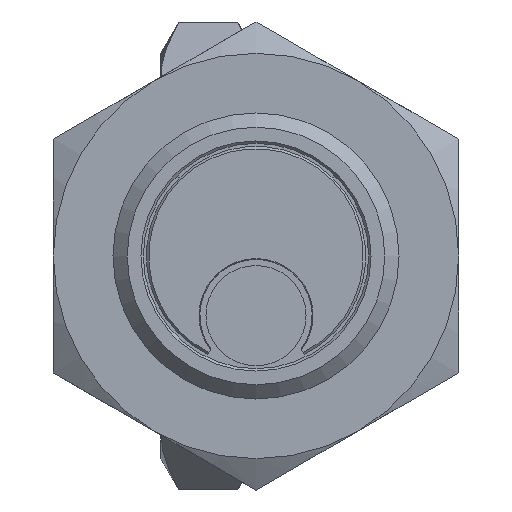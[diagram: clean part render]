
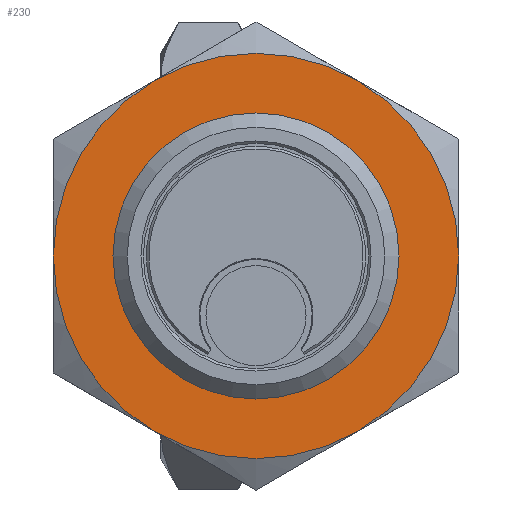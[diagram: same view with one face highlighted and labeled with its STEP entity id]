
A CAD part, left-side view. The second image highlights one B-rep face of the part: STEP entity #230.
In plain terms, the highlighted planar face has unit normal (-1, 0, 0) as drawn and (0, -1, 0) by its records, which use the part's own axes.
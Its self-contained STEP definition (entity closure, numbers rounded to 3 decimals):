
#230 = ADVANCED_FACE( '', ( #340, #341 ), #342, .F. );
#340 = FACE_BOUND( '', #432, .T. );
#341 = FACE_OUTER_BOUND( '', #433, .T. );
#342 = PLANE( '', #434 );
#432 = EDGE_LOOP( '', ( #569 ) );
#433 = EDGE_LOOP( '', ( #570, #571, #572, #573, #574, #575 ) );
#434 = AXIS2_PLACEMENT_3D( '', #576, #577, #578 );
#569 = ORIENTED_EDGE( '', *, *, #804, .F. );
#570 = ORIENTED_EDGE( '', *, *, #805, .F. );
#571 = ORIENTED_EDGE( '', *, *, #806, .F. );
#572 = ORIENTED_EDGE( '', *, *, #807, .F. );
#573 = ORIENTED_EDGE( '', *, *, #797, .F. );
#574 = ORIENTED_EDGE( '', *, *, #795, .F. );
#575 = ORIENTED_EDGE( '', *, *, #808, .F. );
#576 = CARTESIAN_POINT( '', ( 8.5, 0., 14.722 ) );
#577 = DIRECTION( '', ( 0., 1., 0. ) );
#578 = DIRECTION( '', ( 0., 0., 1. ) );
#795 = EDGE_CURVE( '', #904, #907, #908, .T. );
#797 = EDGE_CURVE( '', #907, #910, #911, .T. );
#804 = EDGE_CURVE( '', #922, #922, #923, .T. );
#805 = EDGE_CURVE( '', #900, #924, #925, .T. );
#806 = EDGE_CURVE( '', #891, #900, #926, .T. );
#807 = EDGE_CURVE( '', #910, #891, #927, .T. );
#808 = EDGE_CURVE( '', #924, #904, #928, .T. );
#891 = VERTEX_POINT( '', #1009 );
#900 = VERTEX_POINT( '', #1043 );
#904 = VERTEX_POINT( '', #1059 );
#907 = VERTEX_POINT( '', #1069 );
#908 = CIRCLE( '', #1070, 8.5 );
#910 = VERTEX_POINT( '', #1077 );
#911 = CIRCLE( '', #1078, 8.5 );
#922 = VERTEX_POINT( '', #1115 );
#923 = CIRCLE( '', #1116, 5.459 );
#924 = VERTEX_POINT( '', #1117 );
#925 = CIRCLE( '', #1118, 8.5 );
#926 = CIRCLE( '', #1119, 8.5 );
#927 = CIRCLE( '', #1120, 8.5 );
#928 = CIRCLE( '', #1121, 8.5 );
#1009 = CARTESIAN_POINT( '', ( -4.25, 0., 7.361 ) );
#1043 = CARTESIAN_POINT( '', ( 4.25, 0., 7.361 ) );
#1059 = CARTESIAN_POINT( '', ( 4.25, 0., -7.361 ) );
#1069 = CARTESIAN_POINT( '', ( -4.25, 0., -7.361 ) );
#1070 = AXIS2_PLACEMENT_3D( '', #1264, #1265, #1266 );
#1077 = CARTESIAN_POINT( '', ( -8.5, 0., 0. ) );
#1078 = AXIS2_PLACEMENT_3D( '', #1267, #1268, #1269 );
#1115 = CARTESIAN_POINT( '', ( 5.459, 0., 0. ) );
#1116 = AXIS2_PLACEMENT_3D( '', #1272, #1273, #1274 );
#1117 = CARTESIAN_POINT( '', ( 8.5, 0., 0. ) );
#1118 = AXIS2_PLACEMENT_3D( '', #1275, #1276, #1277 );
#1119 = AXIS2_PLACEMENT_3D( '', #1278, #1279, #1280 );
#1120 = AXIS2_PLACEMENT_3D( '', #1281, #1282, #1283 );
#1121 = AXIS2_PLACEMENT_3D( '', #1284, #1285, #1286 );
#1264 = CARTESIAN_POINT( '', ( 0., 0., 0. ) );
#1265 = DIRECTION( '', ( 0., 1., 0. ) );
#1266 = DIRECTION( '', ( 0., 0., 1. ) );
#1267 = CARTESIAN_POINT( '', ( 0., 0., 0. ) );
#1268 = DIRECTION( '', ( 0., 1., 0. ) );
#1269 = DIRECTION( '', ( 0., 0., 1. ) );
#1272 = CARTESIAN_POINT( '', ( 0., 0., 0. ) );
#1273 = DIRECTION( '', ( 0., -1., 0. ) );
#1274 = DIRECTION( '', ( 1., 0., 0. ) );
#1275 = CARTESIAN_POINT( '', ( 0., 0., 0. ) );
#1276 = DIRECTION( '', ( 0., 1., 0. ) );
#1277 = DIRECTION( '', ( 0., 0., 1. ) );
#1278 = CARTESIAN_POINT( '', ( 0., 0., 0. ) );
#1279 = DIRECTION( '', ( 0., 1., 0. ) );
#1280 = DIRECTION( '', ( 0., 0., 1. ) );
#1281 = CARTESIAN_POINT( '', ( 0., 0., 0. ) );
#1282 = DIRECTION( '', ( 0., 1., 0. ) );
#1283 = DIRECTION( '', ( 0., 0., 1. ) );
#1284 = CARTESIAN_POINT( '', ( 0., 0., 0. ) );
#1285 = DIRECTION( '', ( 0., 1., 0. ) );
#1286 = DIRECTION( '', ( 0., 0., 1. ) );
